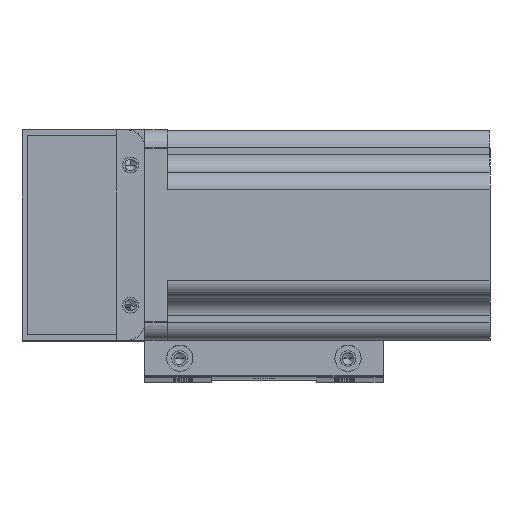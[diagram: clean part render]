
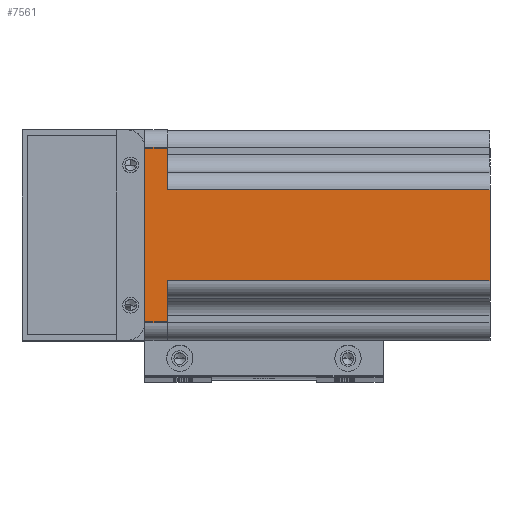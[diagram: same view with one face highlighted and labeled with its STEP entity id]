
A CAD part, top view. The second image highlights one B-rep face of the part: STEP entity #7561.
In plain terms, the highlighted planar face has unit normal (0, 0, 1) as drawn and (-1, 0, 0) by its records, which use the part's own axes.
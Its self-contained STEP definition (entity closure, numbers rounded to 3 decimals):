
#17 = DIRECTION ( 'NONE',  ( 0., 1., 0. ) ) ;
#1444 = LINE ( 'NONE', #17588, #5914 ) ;
#1639 = CARTESIAN_POINT ( 'NONE',  ( -30., -25., 6.5 ) ) ;
#2612 = DIRECTION ( 'NONE',  ( 0., -1., 0. ) ) ;
#4268 = DIRECTION ( 'NONE',  ( 0., -1., 0. ) ) ;
#4688 = VERTEX_POINT ( 'NONE', #10537 ) ;
#5778 = ORIENTED_EDGE ( 'NONE', *, *, #8376, .F. ) ;
#5914 = VECTOR ( 'NONE', #17, 1000. ) ;
#6823 = ORIENTED_EDGE ( 'NONE', *, *, #10796, .F. ) ;
#6986 = VERTEX_POINT ( 'NONE', #18925 ) ;
#7137 = EDGE_CURVE ( 'NONE', #12029, #8870, #1444, .T. ) ;
#7561 = ADVANCED_FACE ( 'NONE', ( #13189 ), #19091, .F. ) ;
#7786 = ORIENTED_EDGE ( 'NONE', *, *, #24768, .T. ) ;
#8317 = CARTESIAN_POINT ( 'NONE',  ( -30., -25., 0. ) ) ;
#8376 = EDGE_CURVE ( 'NONE', #13034, #14543, #12539, .T. ) ;
#8410 = ORIENTED_EDGE ( 'NONE', *, *, #23414, .T. ) ;
#8870 = VERTEX_POINT ( 'NONE', #9984 ) ;
#9977 = LINE ( 'NONE', #12761, #15863 ) ;
#9984 = CARTESIAN_POINT ( 'NONE',  ( -30., 13., -92. ) ) ;
#10330 = ORIENTED_EDGE ( 'NONE', *, *, #7137, .F. ) ;
#10335 = DIRECTION ( 'NONE',  ( 1., 0., 0. ) ) ;
#10537 = CARTESIAN_POINT ( 'NONE',  ( -30., 13., 0. ) ) ;
#10546 = LINE ( 'NONE', #15869, #18830 ) ;
#10796 = EDGE_CURVE ( 'NONE', #14543, #20544, #17395, .T. ) ;
#11140 = VECTOR ( 'NONE', #13005, 1000. ) ;
#11614 = CARTESIAN_POINT ( 'NONE',  ( -30., -25., 6.5 ) ) ;
#12029 = VERTEX_POINT ( 'NONE', #15996 ) ;
#12482 = ORIENTED_EDGE ( 'NONE', *, *, #23495, .T. ) ;
#12539 = LINE ( 'NONE', #23615, #11140 ) ;
#12761 = CARTESIAN_POINT ( 'NONE',  ( -30., 25., 6.5 ) ) ;
#12788 = CARTESIAN_POINT ( 'NONE',  ( -30., -25., 0. ) ) ;
#13005 = DIRECTION ( 'NONE',  ( 0., -1., 0. ) ) ;
#13034 = VERTEX_POINT ( 'NONE', #17512 ) ;
#13189 = FACE_OUTER_BOUND ( 'NONE', #24358, .T. ) ;
#13331 = VERTEX_POINT ( 'NONE', #21707 ) ;
#14306 = VECTOR ( 'NONE', #15457, 1000. ) ;
#14456 = LINE ( 'NONE', #28309, #16523 ) ;
#14543 = VERTEX_POINT ( 'NONE', #11614 ) ;
#15048 = ORIENTED_EDGE ( 'NONE', *, *, #26287, .T. ) ;
#15457 = DIRECTION ( 'NONE',  ( 0., 0., -1. ) ) ;
#15612 = VECTOR ( 'NONE', #4268, 1000. ) ;
#15863 = VECTOR ( 'NONE', #28122, 1000. ) ;
#15869 = CARTESIAN_POINT ( 'NONE',  ( -30., -25., 0. ) ) ;
#15996 = CARTESIAN_POINT ( 'NONE',  ( -30., -13., -92. ) ) ;
#16523 = VECTOR ( 'NONE', #17887, 1000. ) ;
#17395 = LINE ( 'NONE', #26448, #14306 ) ;
#17512 = CARTESIAN_POINT ( 'NONE',  ( -30., 25., 6.5 ) ) ;
#17588 = CARTESIAN_POINT ( 'NONE',  ( -30., -18., -92. ) ) ;
#17887 = DIRECTION ( 'NONE',  ( 0., 0., -1. ) ) ;
#18830 = VECTOR ( 'NONE', #2612, 1000. ) ;
#18925 = CARTESIAN_POINT ( 'NONE',  ( -30., 25., 0. ) ) ;
#19091 = PLANE ( 'NONE',  #24682 ) ;
#19958 = EDGE_CURVE ( 'NONE', #6986, #4688, #25633, .T. ) ;
#20544 = VERTEX_POINT ( 'NONE', #8317 ) ;
#21707 = CARTESIAN_POINT ( 'NONE',  ( -30., -13., 0. ) ) ;
#22862 = VECTOR ( 'NONE', #23384, 1000. ) ;
#23384 = DIRECTION ( 'NONE',  ( 0., 0., 1. ) ) ;
#23414 = EDGE_CURVE ( 'NONE', #13034, #6986, #9977, .T. ) ;
#23495 = EDGE_CURVE ( 'NONE', #4688, #8870, #14456, .T. ) ;
#23569 = CARTESIAN_POINT ( 'NONE',  ( -30., -13., 6.5 ) ) ;
#23615 = CARTESIAN_POINT ( 'NONE',  ( -30., -25., 6.5 ) ) ;
#23834 = DIRECTION ( 'NONE',  ( 0., 0., -1. ) ) ;
#24358 = EDGE_LOOP ( 'NONE', ( #10330, #7786, #15048, #6823, #5778, #8410, #27787, #12482 ) ) ;
#24682 = AXIS2_PLACEMENT_3D ( 'NONE', #1639, #10335, #23834 ) ;
#24768 = EDGE_CURVE ( 'NONE', #12029, #13331, #27051, .T. ) ;
#25633 = LINE ( 'NONE', #12788, #15612 ) ;
#26287 = EDGE_CURVE ( 'NONE', #13331, #20544, #10546, .T. ) ;
#26448 = CARTESIAN_POINT ( 'NONE',  ( -30., -25., 6.5 ) ) ;
#27051 = LINE ( 'NONE', #23569, #22862 ) ;
#27787 = ORIENTED_EDGE ( 'NONE', *, *, #19958, .T. ) ;
#28122 = DIRECTION ( 'NONE',  ( 0., 0., -1. ) ) ;
#28309 = CARTESIAN_POINT ( 'NONE',  ( -30., 13., 6.5 ) ) ;
